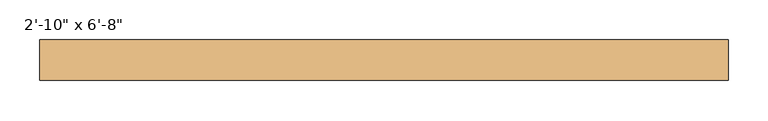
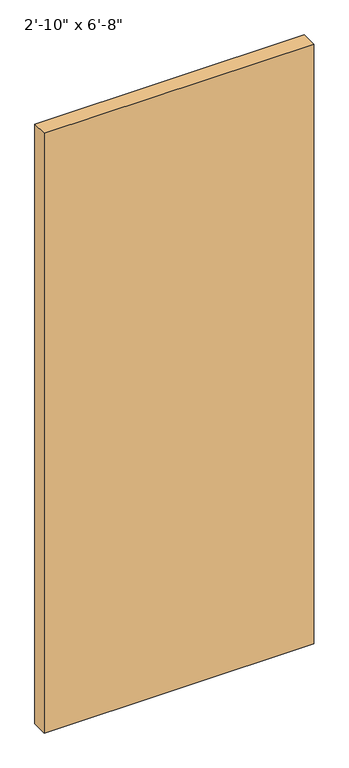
"""IFC4 building model written with IfcOpenShell, lengths in millimetres: door geometry."""

from ifc_helpers import new_model, si_unit, origin, origin_with_axes, place, context, project, spatial, polyline, outline, extrude, source, transform, mapped, element, save


def door_8c30df6c(model_context):
    return source(origin(), model_context, "Body", "SweptSolid", [
        extrude(outline(polyline([(431.8, 76.0), (-431.8, 76.0), (-431.8, 127.0), (431.8, 127.0), (431.8, 76.0)])), origin_with_axes(), (0.0, 0.0, 1.0), 2032.0),
    ])


if __name__ == "__main__":
    model = new_model("IFC4")
    model_context = context("Model", 3, world=origin())
    ifc_project = project(units=[si_unit("LENGTHUNIT", "METRE", prefix="MILLI")], contexts=[model_context])
    site = spatial("IfcSite", under=ifc_project)
    building = spatial("IfcBuilding", under=site)
    placement = place(None, origin())
    door_shape = door_8c30df6c(model_context)
    element("IfcDoor", 1, ObjectType="Planitar - Single Door_Flush Panel : 2'-10\" x 6'-8\"", at=placement, inside=building, context=model_context, shape_type="MappedRepresentation", body=[
        mapped(door_shape, transform((0.0, 0.0, 0.0), x_axis=(1.0, 0.0, 0.0), y_axis=(0.0, 1.0, 0.0), z_axis=(0.0, 0.0, 1.0))),
    ])
    save(model, "model.ifc")
